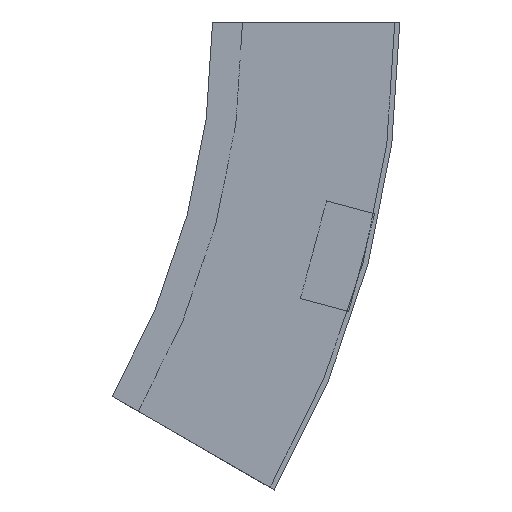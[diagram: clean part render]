
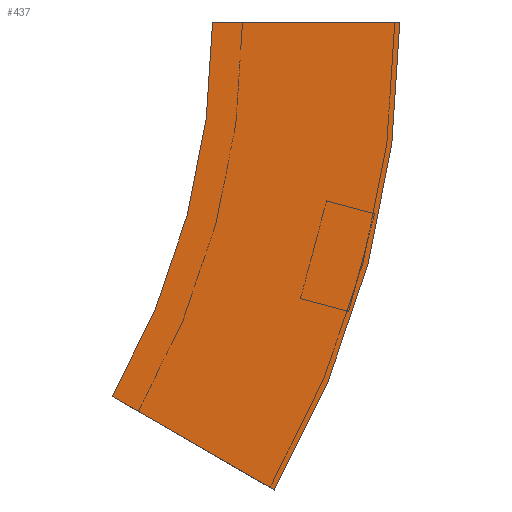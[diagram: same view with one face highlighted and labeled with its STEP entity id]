
A CAD part, left-side view. The second image highlights one B-rep face of the part: STEP entity #437.
In plain terms, the highlighted planar face has unit normal (-1, 0, 0) as drawn and (1, 0, 0) by its records, which use the part's own axes.
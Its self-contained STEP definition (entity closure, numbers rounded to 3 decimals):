
#5 = VERTEX_POINT ( 'NONE', #557 ) ;
#11 = DIRECTION ( 'NONE',  ( 1., 0., 0. ) ) ;
#22 = DIRECTION ( 'NONE',  ( 0., 1., 0. ) ) ;
#31 = CARTESIAN_POINT ( 'NONE',  ( 0., 300., 0. ) ) ;
#37 = CIRCLE ( 'NONE', #297, 375. ) ;
#49 = DIRECTION ( 'NONE',  ( 0., -1., 0. ) ) ;
#55 = CARTESIAN_POINT ( 'NONE',  ( 0., 40.192, -150. ) ) ;
#106 = CARTESIAN_POINT ( 'NONE',  ( 0., 0., 0. ) ) ;
#137 = ORIENTED_EDGE ( 'NONE', *, *, #376, .T. ) ;
#164 = DIRECTION ( 'NONE',  ( 0., 0., 1. ) ) ;
#181 = VERTEX_POINT ( 'NONE', #55 ) ;
#185 = CARTESIAN_POINT ( 'NONE',  ( 0., -24.76, -187.5 ) ) ;
#198 = AXIS2_PLACEMENT_3D ( 'NONE', #31, #207, #326 ) ;
#200 = FACE_OUTER_BOUND ( 'NONE', #443, .T. ) ;
#206 = LINE ( 'NONE', #456, #497 ) ;
#207 = DIRECTION ( 'NONE',  ( 1., 0., 0. ) ) ;
#222 = CARTESIAN_POINT ( 'NONE',  ( 0., 300., 0. ) ) ;
#272 = VERTEX_POINT ( 'NONE', #106 ) ;
#280 = ORIENTED_EDGE ( 'NONE', *, *, #554, .F. ) ;
#290 = LINE ( 'NONE', #294, #426 ) ;
#294 = CARTESIAN_POINT ( 'NONE',  ( 0., -75., 0. ) ) ;
#297 = AXIS2_PLACEMENT_3D ( 'NONE', #222, #11, #49 ) ;
#317 = PLANE ( 'NONE',  #545 ) ;
#326 = DIRECTION ( 'NONE',  ( 0., -1., 0. ) ) ;
#356 = ORIENTED_EDGE ( 'NONE', *, *, #513, .F. ) ;
#364 = VERTEX_POINT ( 'NONE', #185 ) ;
#365 = DIRECTION ( 'NONE',  ( -1., 0., 0. ) ) ;
#372 = CIRCLE ( 'NONE', #198, 300. ) ;
#373 = CARTESIAN_POINT ( 'NONE',  ( 0., -75., 0. ) ) ;
#376 = EDGE_CURVE ( 'NONE', #5, #364, #37, .T. ) ;
#422 = DIRECTION ( 'NONE',  ( 0., 0.866, 0.5 ) ) ;
#426 = VECTOR ( 'NONE', #22, 1000. ) ;
#437 = ADVANCED_FACE ( 'NONE', ( #200 ), #317, .F. ) ;
#443 = EDGE_LOOP ( 'NONE', ( #280, #356, #137, #447 ) ) ;
#447 = ORIENTED_EDGE ( 'NONE', *, *, #451, .T. ) ;
#451 = EDGE_CURVE ( 'NONE', #364, #181, #206, .T. ) ;
#456 = CARTESIAN_POINT ( 'NONE',  ( 0., -24.76, -187.5 ) ) ;
#497 = VECTOR ( 'NONE', #422, 1000. ) ;
#513 = EDGE_CURVE ( 'NONE', #5, #272, #290, .T. ) ;
#545 = AXIS2_PLACEMENT_3D ( 'NONE', #373, #365, #164 ) ;
#554 = EDGE_CURVE ( 'NONE', #272, #181, #372, .T. ) ;
#557 = CARTESIAN_POINT ( 'NONE',  ( 0., -75., 0. ) ) ;
